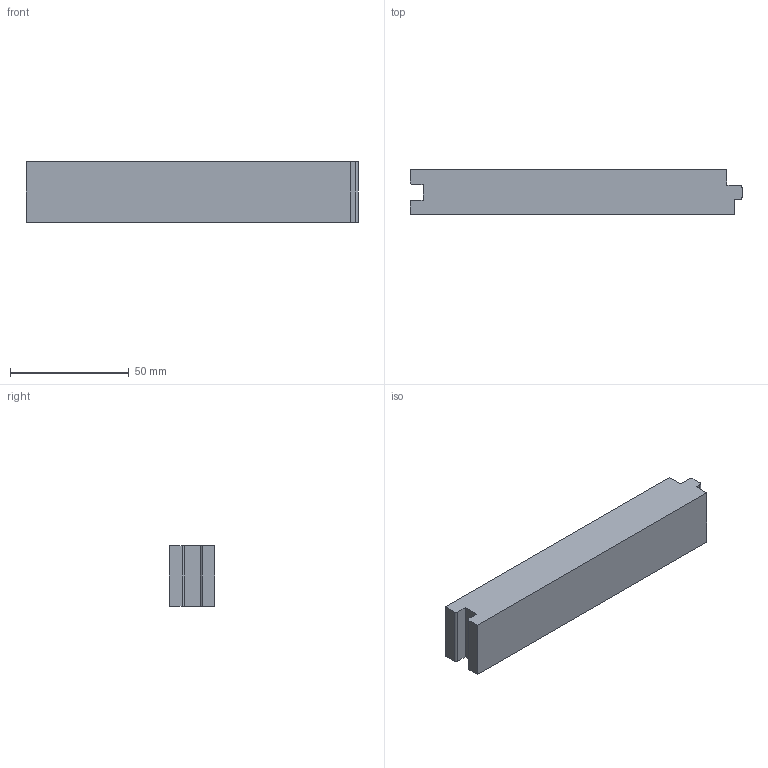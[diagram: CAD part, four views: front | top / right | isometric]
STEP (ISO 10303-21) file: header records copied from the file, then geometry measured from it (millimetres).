
FILE_DESCRIPTION (( 'STEP AP203' ), '1' );
FILE_NAME ('Nick6FJ.STEP', '2023-08-25T14:30:04', ( '' ), ( '' ), 'SwSTEP 2.0', 'SolidWorks 2020', '' );
FILE_SCHEMA (( 'CONFIG_CONTROL_DESIGN' ));
Length unit declared in the file: inch
Products named in the file (1): Nick6FJ
Bounding box: 139.7 x 19.05 x 25.4 mm (x, y, z)
Volume: 65045.4 mm3; surface area: 13423 mm2
Topology: 1 solids, 1 shells, 18 faces, 48 edges, 32 vertices
Faces by surface type: plane 14, cylinder 4
Entity records: 639 total; most frequent: CARTESIAN_POINT 99, ORIENTED_EDGE 96, DIRECTION 94, EDGE_CURVE 48, LINE 40, VECTOR 40, VERTEX_POINT 32, AXIS2_PLACEMENT_3D 27
